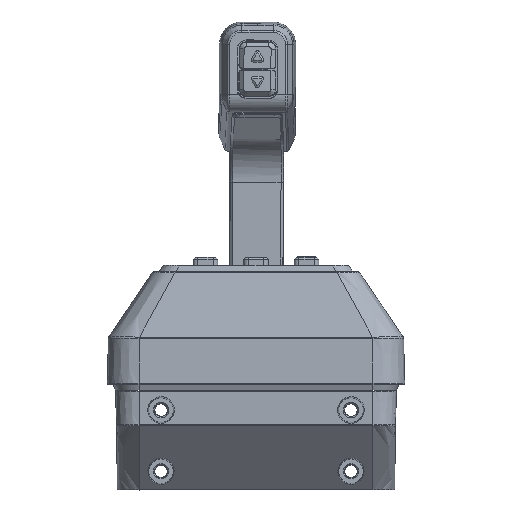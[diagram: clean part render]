
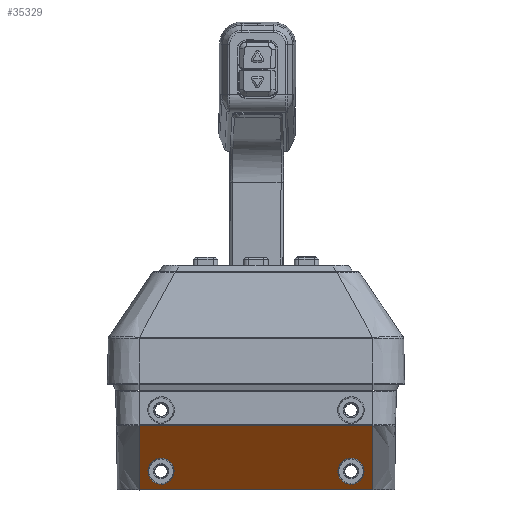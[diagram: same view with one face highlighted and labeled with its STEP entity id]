
A CAD part, left-side view. The second image highlights one B-rep face of the part: STEP entity #35329.
In plain terms, the highlighted planar face has unit normal (-0.751, 0, -0.66).
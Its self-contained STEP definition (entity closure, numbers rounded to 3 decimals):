
#584 = PLANE ( 'NONE',  #2419 ) ;
#2280 = CARTESIAN_POINT ( 'NONE',  ( -9.568, 30.555, -62.096 ) ) ;
#2293 =( BOUNDED_CURVE ( )  B_SPLINE_CURVE ( 3, ( #39637, #52669, #35148, #14048 ),
 .UNSPECIFIED., .F., .T. ) 
 B_SPLINE_CURVE_WITH_KNOTS ( ( 4, 4 ),
 ( 3.142, 6.283 ),
 .UNSPECIFIED. ) 
 CURVE ( )  GEOMETRIC_REPRESENTATION_ITEM ( )  RATIONAL_B_SPLINE_CURVE ( ( 1., 0.333, 0.333, 1. ) ) 
 REPRESENTATION_ITEM ( '' )  );
#2419 = AXIS2_PLACEMENT_3D ( 'NONE', #26137, #30677, #30487 ) ;
#2458 = CARTESIAN_POINT ( 'NONE',  ( -19.808, 42.2, -50.451 ) ) ;
#3920 = DIRECTION ( 'NONE',  ( -0.66, 0., 0.751 ) ) ;
#5390 = CARTESIAN_POINT ( 'NONE',  ( -7.366, -52., -64.6 ) ) ;
#6575 = CARTESIAN_POINT ( 'NONE',  ( -7.366, -52., -64.6 ) ) ;
#6581 =( BOUNDED_CURVE ( )  B_SPLINE_CURVE ( 3, ( #2458, #15013, #2280, #50041 ),
 .UNSPECIFIED., .F., .F. ) 
 B_SPLINE_CURVE_WITH_KNOTS ( ( 4, 4 ),
 ( 0., 3.142 ),
 .UNSPECIFIED. ) 
 CURVE ( )  GEOMETRIC_REPRESENTATION_ITEM ( )  RATIONAL_B_SPLINE_CURVE ( ( 1., 0.333, 0.333, 1. ) ) 
 REPRESENTATION_ITEM ( '' )  );
#9523 = VECTOR ( 'NONE', #28125, 1000. ) ;
#11448 = EDGE_CURVE ( 'NONE', #30040, #53267, #48550, .T. ) ;
#12073 = CARTESIAN_POINT ( 'NONE',  ( -19.808, -30.555, -50.451 ) ) ;
#14048 = CARTESIAN_POINT ( 'NONE',  ( -19.808, 42.2, -50.451 ) ) ;
#14406 = CARTESIAN_POINT ( 'NONE',  ( -9.568, 42.2, -62.096 ) ) ;
#14546 = LINE ( 'NONE', #45931, #35470 ) ;
#15013 = CARTESIAN_POINT ( 'NONE',  ( -19.808, 30.555, -50.451 ) ) ;
#16400 = CARTESIAN_POINT ( 'NONE',  ( -19.808, -42.2, -50.451 ) ) ;
#16418 = CARTESIAN_POINT ( 'NONE',  ( -9.568, -53.845, -62.096 ) ) ;
#16693 = ORIENTED_EDGE ( 'NONE', *, *, #19516, .T. ) ;
#18717 = EDGE_LOOP ( 'NONE', ( #54520, #43926, #37351, #25272 ) ) ;
#19516 = EDGE_CURVE ( 'NONE', #31186, #23653, #54886, .T. ) ;
#20510 = EDGE_CURVE ( 'NONE', #32055, #48799, #6581, .T. ) ;
#20935 = CARTESIAN_POINT ( 'NONE',  ( -9.568, -42.2, -62.096 ) ) ;
#21141 = CARTESIAN_POINT ( 'NONE',  ( -19.808, -42.2, -50.451 ) ) ;
#21343 = CARTESIAN_POINT ( 'NONE',  ( -9.568, -42.2, -62.096 ) ) ;
#22272 = CARTESIAN_POINT ( 'NONE',  ( -7.366, 52., -64.6 ) ) ;
#23062 = LINE ( 'NONE', #6575, #48667 ) ;
#23081 = CARTESIAN_POINT ( 'NONE',  ( -32.423, 51.984, -36.104 ) ) ;
#23653 = VERTEX_POINT ( 'NONE', #53775 ) ;
#24162 = EDGE_LOOP ( 'NONE', ( #40652, #39204 ) ) ;
#24465 = DIRECTION ( 'NONE',  ( 0., 1., 0. ) ) ;
#24631 = VERTEX_POINT ( 'NONE', #5390 ) ;
#24633 = CARTESIAN_POINT ( 'NONE',  ( -32.423, 51.984, -36.104 ) ) ;
#24820 = EDGE_CURVE ( 'NONE', #53267, #24631, #28191, .T. ) ;
#24841 = CARTESIAN_POINT ( 'NONE',  ( -7.366, 0., -64.6 ) ) ;
#25272 = ORIENTED_EDGE ( 'NONE', *, *, #30704, .T. ) ;
#26137 = CARTESIAN_POINT ( 'NONE',  ( -20.116, 0., -50.1 ) ) ;
#26501 = VERTEX_POINT ( 'NONE', #49039 ) ;
#27287 = CARTESIAN_POINT ( 'NONE',  ( -19.808, 42.2, -50.451 ) ) ;
#28125 = DIRECTION ( 'NONE',  ( 0.66, 0., -0.751 ) ) ;
#28191 = LINE ( 'NONE', #24841, #51825 ) ;
#30040 = VERTEX_POINT ( 'NONE', #24633 ) ;
#30487 = DIRECTION ( 'NONE',  ( -0.66, 0., 0.751 ) ) ;
#30677 = DIRECTION ( 'NONE',  ( -0.751, 0., -0.66 ) ) ;
#30704 = EDGE_CURVE ( 'NONE', #26501, #30040, #14546, .T. ) ;
#31186 = VERTEX_POINT ( 'NONE', #39606 ) ;
#32055 = VERTEX_POINT ( 'NONE', #27287 ) ;
#35148 = CARTESIAN_POINT ( 'NONE',  ( -19.808, 53.845, -50.451 ) ) ;
#35329 = ADVANCED_FACE ( 'NONE', ( #44120, #38042, #42774 ), #584, .T. ) ;
#35470 = VECTOR ( 'NONE', #24465, 1000. ) ;
#36367 = ORIENTED_EDGE ( 'NONE', *, *, #37805, .T. ) ;
#37351 = ORIENTED_EDGE ( 'NONE', *, *, #54411, .T. ) ;
#37805 = EDGE_CURVE ( 'NONE', #23653, #31186, #49239, .T. ) ;
#38042 = FACE_BOUND ( 'NONE', #40336, .T. ) ;
#39204 = ORIENTED_EDGE ( 'NONE', *, *, #54726, .T. ) ;
#39606 = CARTESIAN_POINT ( 'NONE',  ( -19.808, -42.2, -50.451 ) ) ;
#39637 = CARTESIAN_POINT ( 'NONE',  ( -9.568, 42.2, -62.096 ) ) ;
#40336 = EDGE_LOOP ( 'NONE', ( #16693, #36367 ) ) ;
#40652 = ORIENTED_EDGE ( 'NONE', *, *, #20510, .T. ) ;
#42774 = FACE_BOUND ( 'NONE', #24162, .T. ) ;
#43926 = ORIENTED_EDGE ( 'NONE', *, *, #24820, .T. ) ;
#44120 = FACE_OUTER_BOUND ( 'NONE', #18717, .T. ) ;
#45931 = CARTESIAN_POINT ( 'NONE',  ( -32.423, 0., -36.104 ) ) ;
#46478 = DIRECTION ( 'NONE',  ( 0., -1., 0. ) ) ;
#47126 = CARTESIAN_POINT ( 'NONE',  ( -19.808, -53.845, -50.451 ) ) ;
#48550 = LINE ( 'NONE', #23081, #9523 ) ;
#48667 = VECTOR ( 'NONE', #3920, 1000. ) ;
#48799 = VERTEX_POINT ( 'NONE', #14406 ) ;
#49039 = CARTESIAN_POINT ( 'NONE',  ( -32.423, -51.984, -36.104 ) ) ;
#49239 =( BOUNDED_CURVE ( )  B_SPLINE_CURVE ( 3, ( #20935, #54676, #12073, #16400 ),
 .UNSPECIFIED., .F., .F. ) 
 B_SPLINE_CURVE_WITH_KNOTS ( ( 4, 4 ),
 ( 3.142, 6.283 ),
 .UNSPECIFIED. ) 
 CURVE ( )  GEOMETRIC_REPRESENTATION_ITEM ( )  RATIONAL_B_SPLINE_CURVE ( ( 1., 0.333, 0.333, 1. ) ) 
 REPRESENTATION_ITEM ( '' )  );
#50041 = CARTESIAN_POINT ( 'NONE',  ( -9.568, 42.2, -62.096 ) ) ;
#51825 = VECTOR ( 'NONE', #46478, 1000. ) ;
#52669 = CARTESIAN_POINT ( 'NONE',  ( -9.568, 53.845, -62.096 ) ) ;
#53267 = VERTEX_POINT ( 'NONE', #22272 ) ;
#53775 = CARTESIAN_POINT ( 'NONE',  ( -9.568, -42.2, -62.096 ) ) ;
#54411 = EDGE_CURVE ( 'NONE', #24631, #26501, #23062, .T. ) ;
#54520 = ORIENTED_EDGE ( 'NONE', *, *, #11448, .T. ) ;
#54676 = CARTESIAN_POINT ( 'NONE',  ( -9.568, -30.555, -62.096 ) ) ;
#54726 = EDGE_CURVE ( 'NONE', #48799, #32055, #2293, .T. ) ;
#54886 =( BOUNDED_CURVE ( )  B_SPLINE_CURVE ( 3, ( #21141, #47126, #16418, #21343 ),
 .UNSPECIFIED., .F., .F. ) 
 B_SPLINE_CURVE_WITH_KNOTS ( ( 4, 4 ),
 ( 0., 3.142 ),
 .UNSPECIFIED. ) 
 CURVE ( )  GEOMETRIC_REPRESENTATION_ITEM ( )  RATIONAL_B_SPLINE_CURVE ( ( 1., 0.333, 0.333, 1. ) ) 
 REPRESENTATION_ITEM ( '' )  );
